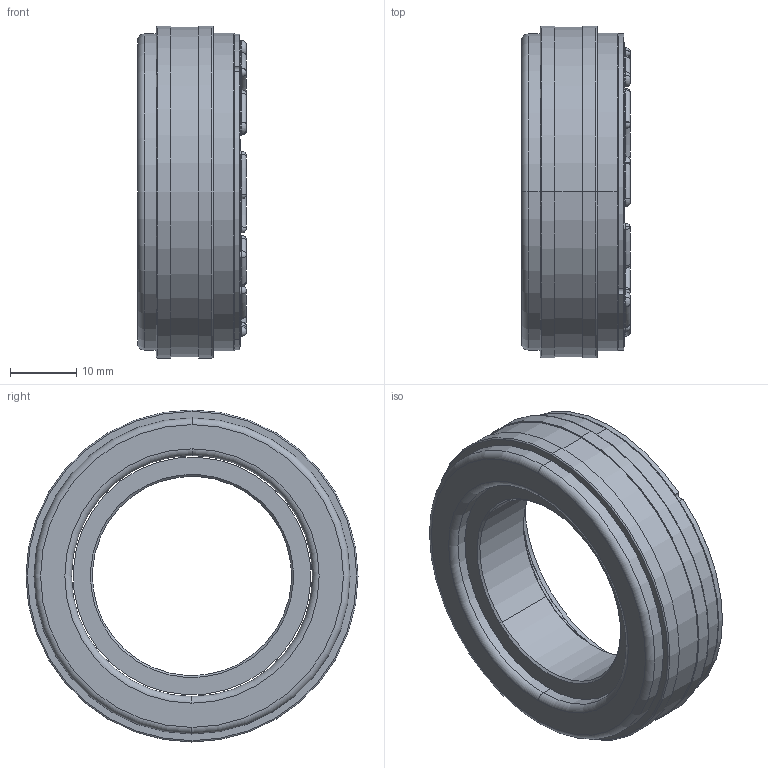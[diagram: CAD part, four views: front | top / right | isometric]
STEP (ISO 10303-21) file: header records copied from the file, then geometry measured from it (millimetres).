
FILE_DESCRIPTION (( 'STEP AP214' ), '1' );
FILE_NAME ('E-00106239.01.step', '2019-09-20T11:57:29', ( 'Admin' ), ( 'Microsoft' ), 'SwSTEP 2.0', 'SolidWorks 2018', '' );
FILE_SCHEMA (( 'AUTOMOTIVE_DESIGN' ));
Length unit declared in the file: millimetre
Products named in the file (4): E-00008345; E-00008337; E-00106237; E-00106239.01
Assembly tree (3 placements, depth 2):
  E-00106239.01
    E-00106237
    E-00008337
    E-00008345
Bounding box: 16.4 x 50 x 50 mm (x, y, z)
Volume: 15948.7 mm3; surface area: 10351.3 mm2
Topology: 3 solids, 3 shells, 886 faces, 2015 edges, 1303 vertices
Faces by surface type: cylinder 437, plane 372, torus 46, sphere 27, cone 4
Entity records: 33091 total; most frequent: DIRECTION 4808, CARTESIAN_POINT 4177, ORIENTED_EDGE 3958, EDGE_CURVE 1979, AXIS2_PLACEMENT_3D 1942, VERTEX_POINT 1285, EDGE_LOOP 1084, CIRCLE 1050
